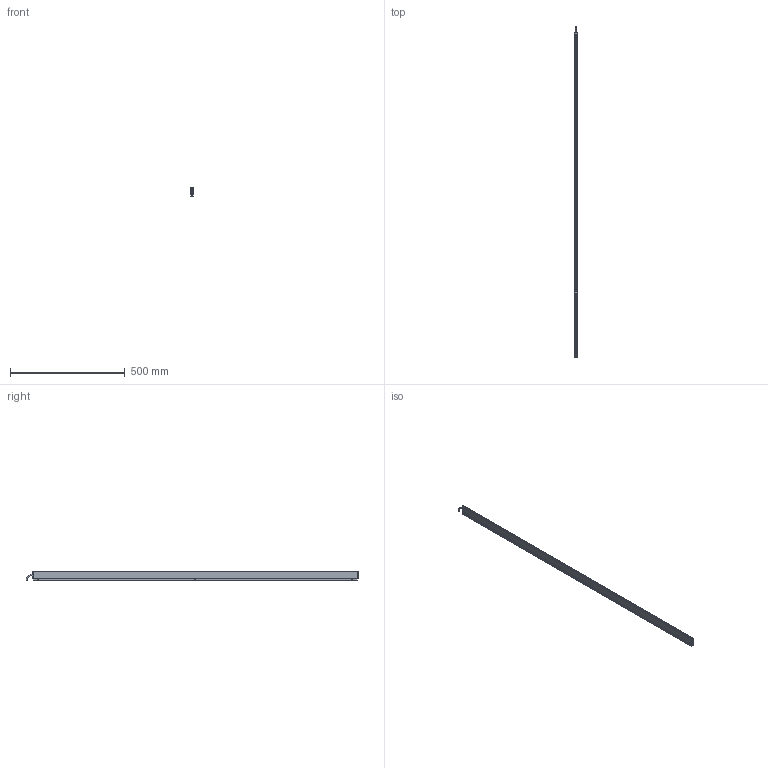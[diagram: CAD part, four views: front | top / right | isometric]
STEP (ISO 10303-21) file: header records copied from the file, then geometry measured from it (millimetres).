
FILE_DESCRIPTION (( 'STEP AP214' ), '1' );
FILE_NAME ('ILG-L-K1-1420mm.STEP', '2017-07-11T07:10:20', ( '' ), ( '' ), 'SwSTEP 2.0', 'SolidWorks 2016', '' );
FILE_SCHEMA (( 'AUTOMOTIVE_DESIGN' ));
Length unit declared in the file: millimetre
Products named in the file (1): ILG-L-K1-1420mm
Bounding box: 9 x 1448.25 x 40.71 mm (x, y, z)
Volume: 201203.3 mm3; surface area: 279932.4 mm2
Topology: 9 solids, 9 shells, 430 faces, 1108 edges, 698 vertices
Faces by surface type: plane 205, cylinder 151, cone 64, torus 10
Entity records: 17910 total; most frequent: CARTESIAN_POINT 2385, DIRECTION 2328, ORIENTED_EDGE 2200, EDGE_CURVE 1100, AXIS2_PLACEMENT_3D 849, VERTEX_POINT 698, LINE 630, VECTOR 630
